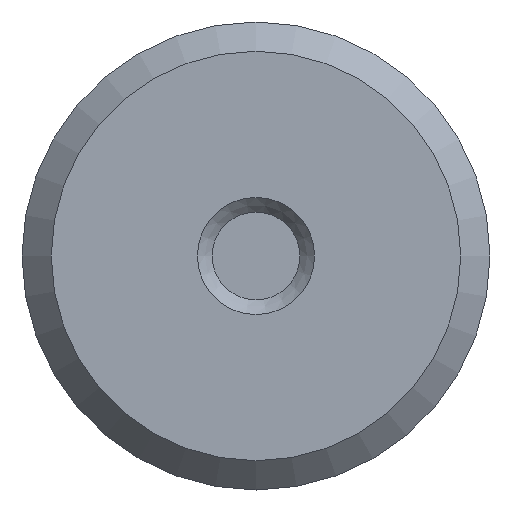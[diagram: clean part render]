
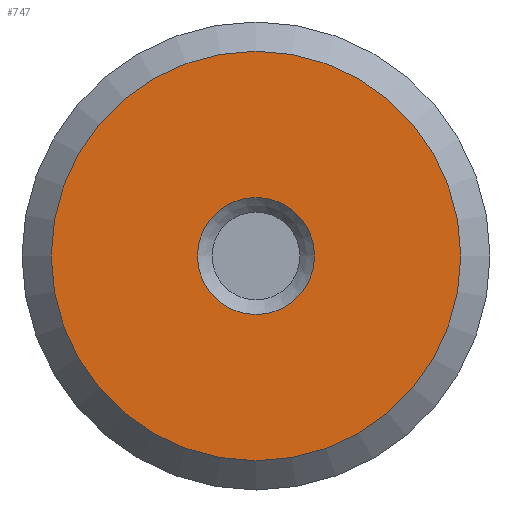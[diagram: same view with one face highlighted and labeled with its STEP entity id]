
A CAD part, left-side view. The second image highlights one B-rep face of the part: STEP entity #747.
In plain terms, the highlighted planar face has unit normal (-1, 0, 0).
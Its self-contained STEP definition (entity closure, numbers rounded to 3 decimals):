
#39=FACE_BOUND('',#210,.T.);
#137=PLANE('',#846);
#168=FACE_OUTER_BOUND('',#209,.T.);
#209=EDGE_LOOP('',(#627,#628));
#210=EDGE_LOOP('',(#629,#630));
#263=CIRCLE('',#844,2.);
#264=CIRCLE('',#845,2.);
#265=CIRCLE('',#847,7.);
#266=CIRCLE('',#848,7.);
#341=VERTEX_POINT('',#1435);
#342=VERTEX_POINT('',#1437);
#343=VERTEX_POINT('',#1441);
#344=VERTEX_POINT('',#1442);
#443=EDGE_CURVE('',#342,#341,#263,.T.);
#444=EDGE_CURVE('',#341,#342,#264,.T.);
#445=EDGE_CURVE('',#343,#344,#265,.T.);
#446=EDGE_CURVE('',#344,#343,#266,.T.);
#627=ORIENTED_EDGE('',*,*,#445,.F.);
#628=ORIENTED_EDGE('',*,*,#446,.F.);
#629=ORIENTED_EDGE('',*,*,#443,.T.);
#630=ORIENTED_EDGE('',*,*,#444,.T.);
#747=ADVANCED_FACE('',(#168,#39),#137,.T.);
#844=AXIS2_PLACEMENT_3D('',#1438,#1045,#1046);
#845=AXIS2_PLACEMENT_3D('',#1439,#1047,#1048);
#846=AXIS2_PLACEMENT_3D('',#1440,#1049,#1050);
#847=AXIS2_PLACEMENT_3D('',#1443,#1051,#1052);
#848=AXIS2_PLACEMENT_3D('',#1444,#1053,#1054);
#1045=DIRECTION('center_axis',(1.,0.,0.));
#1046=DIRECTION('ref_axis',(0.,0.,-1.));
#1047=DIRECTION('center_axis',(1.,0.,0.));
#1048=DIRECTION('ref_axis',(0.,0.,-1.));
#1049=DIRECTION('center_axis',(-1.,0.,0.));
#1050=DIRECTION('ref_axis',(0.,0.,1.));
#1051=DIRECTION('center_axis',(1.,0.,0.));
#1052=DIRECTION('ref_axis',(0.,0.,-1.));
#1053=DIRECTION('center_axis',(1.,0.,0.));
#1054=DIRECTION('ref_axis',(0.,0.,-1.));
#1435=CARTESIAN_POINT('',(-82.5,-2.,0.));
#1437=CARTESIAN_POINT('',(-82.5,2.,0.));
#1438=CARTESIAN_POINT('Origin',(-82.5,0.,0.));
#1439=CARTESIAN_POINT('Origin',(-82.5,0.,0.));
#1440=CARTESIAN_POINT('Origin',(-82.5,7.,0.));
#1441=CARTESIAN_POINT('',(-82.5,7.,0.));
#1442=CARTESIAN_POINT('',(-82.5,-7.,0.));
#1443=CARTESIAN_POINT('Origin',(-82.5,0.,0.));
#1444=CARTESIAN_POINT('Origin',(-82.5,0.,0.));
